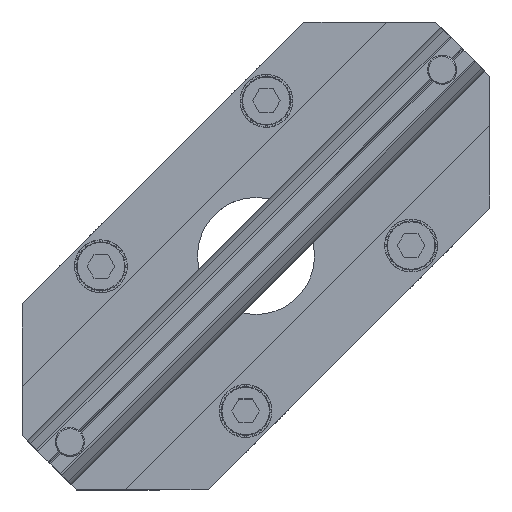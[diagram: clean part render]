
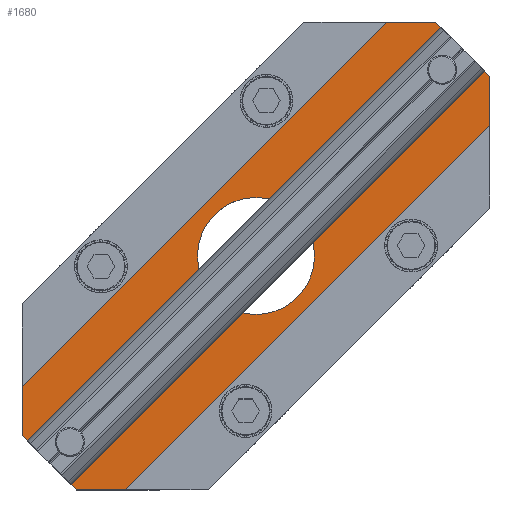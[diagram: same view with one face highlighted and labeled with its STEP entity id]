
A CAD part, top view. The second image highlights one B-rep face of the part: STEP entity #1680.
In plain terms, the highlighted planar face has unit normal (0, 0, 1).
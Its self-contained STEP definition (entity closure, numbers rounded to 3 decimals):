
#460 = VERTEX_POINT ( 'NONE', #27832 ) ;
#536 = DIRECTION ( 'NONE',  ( 0., 1., 0. ) ) ;
#594 = EDGE_CURVE ( 'NONE', #873, #4789, #12694, .T. ) ;
#676 = EDGE_CURVE ( 'NONE', #460, #53103, #4409, .T. ) ;
#873 = VERTEX_POINT ( 'NONE', #42183 ) ;
#1081 = DIRECTION ( 'NONE',  ( -1., 0., 0. ) ) ;
#1260 = EDGE_CURVE ( 'NONE', #50598, #873, #7307, .T. ) ;
#1328 = DIRECTION ( 'NONE',  ( -0.707, 0.707, 0. ) ) ;
#1680 = ADVANCED_FACE ( 'NONE', ( #45121, #46613, #33737, #12516 ), #52143, .F. ) ;
#4409 = CIRCLE ( 'NONE', #44455, 2.55 ) ;
#4465 = VERTEX_POINT ( 'NONE', #46249 ) ;
#4551 = VERTEX_POINT ( 'NONE', #22959 ) ;
#4789 = VERTEX_POINT ( 'NONE', #30099 ) ;
#5237 = VECTOR ( 'NONE', #1328, 1000. ) ;
#6432 = LINE ( 'NONE', #57346, #21563 ) ;
#6964 = ORIENTED_EDGE ( 'NONE', *, *, #594, .F. ) ;
#7307 = LINE ( 'NONE', #45964, #58789 ) ;
#7898 = AXIS2_PLACEMENT_3D ( 'NONE', #39464, #30130, #1081 ) ;
#8156 = ORIENTED_EDGE ( 'NONE', *, *, #56302, .T. ) ;
#10124 = DIRECTION ( 'NONE',  ( 0., 0., -1. ) ) ;
#10553 = DIRECTION ( 'NONE',  ( -1., 0., 0. ) ) ;
#10811 = EDGE_CURVE ( 'NONE', #4465, #40395, #16328, .T. ) ;
#10882 = EDGE_LOOP ( 'NONE', ( #12245, #58870 ) ) ;
#11670 = CARTESIAN_POINT ( 'NONE',  ( -43.334, 37.046, 36.972 ) ) ;
#12245 = ORIENTED_EDGE ( 'NONE', *, *, #51984, .T. ) ;
#12516 = FACE_OUTER_BOUND ( 'NONE', #15450, .T. ) ;
#12694 = LINE ( 'NONE', #24049, #41510 ) ;
#13198 = ORIENTED_EDGE ( 'NONE', *, *, #48009, .T. ) ;
#13286 = DIRECTION ( 'NONE',  ( -1., 0., 0. ) ) ;
#13388 = DIRECTION ( 'NONE',  ( -1., 0., 0. ) ) ;
#14516 = EDGE_CURVE ( 'NONE', #33290, #20161, #25627, .T. ) ;
#15101 = VERTEX_POINT ( 'NONE', #51238 ) ;
#15156 = CIRCLE ( 'NONE', #57767, 2.55 ) ;
#15450 = EDGE_LOOP ( 'NONE', ( #49590, #8156, #26409, #54305, #34578, #46119, #6964, #50933 ) ) ;
#15776 = CARTESIAN_POINT ( 'NONE',  ( -52.624, 54.723, 36.972 ) ) ;
#16328 = CIRCLE ( 'NONE', #45753, 2.55 ) ;
#17145 = DIRECTION ( 'NONE',  ( 0.707, 0.707, 0. ) ) ;
#17487 = EDGE_CURVE ( 'NONE', #53103, #460, #49201, .T. ) ;
#19856 = CARTESIAN_POINT ( 'NONE',  ( -73.334, 14.723, 36.972 ) ) ;
#20161 = VERTEX_POINT ( 'NONE', #11670 ) ;
#20419 = DIRECTION ( 'NONE',  ( 0., 0., 1. ) ) ;
#20579 = DIRECTION ( 'NONE',  ( 0., 0., -1. ) ) ;
#20596 = DIRECTION ( 'NONE',  ( 0.707, -0.707, 0. ) ) ;
#21333 = CARTESIAN_POINT ( 'NONE',  ( -115.154, -17.096, 36.972 ) ) ;
#21563 = VECTOR ( 'NONE', #536, 1000. ) ;
#22636 = VERTEX_POINT ( 'NONE', #33539 ) ;
#22959 = CARTESIAN_POINT ( 'NONE',  ( -93.334, 14.723, 36.972 ) ) ;
#24049 = CARTESIAN_POINT ( 'NONE',  ( -75.154, 54.723, 36.972 ) ) ;
#24221 = AXIS2_PLACEMENT_3D ( 'NONE', #46855, #32451, #13388 ) ;
#24278 = EDGE_CURVE ( 'NONE', #20161, #15101, #56062, .T. ) ;
#24365 = EDGE_CURVE ( 'NONE', #33290, #4789, #33286, .T. ) ;
#25627 = LINE ( 'NONE', #46038, #35475 ) ;
#25861 = CARTESIAN_POINT ( 'NONE',  ( -43.334, 45.434, 36.972 ) ) ;
#26123 = CARTESIAN_POINT ( 'NONE',  ( -54.064, 46.543, 36.972 ) ) ;
#26209 = DIRECTION ( 'NONE',  ( 1., 0., 0. ) ) ;
#26409 = ORIENTED_EDGE ( 'NONE', *, *, #34289, .F. ) ;
#27640 = LINE ( 'NONE', #44330, #60939 ) ;
#27832 = CARTESIAN_POINT ( 'NONE',  ( -112.604, -17.096, 36.972 ) ) ;
#28253 = CARTESIAN_POINT ( 'NONE',  ( -105.657, -25.277, 36.972 ) ) ;
#30099 = CARTESIAN_POINT ( 'NONE',  ( -52.624, 54.723, 36.972 ) ) ;
#30130 = DIRECTION ( 'NONE',  ( 0., 0., -1. ) ) ;
#30664 = AXIS2_PLACEMENT_3D ( 'NONE', #21333, #55219, #26209 ) ;
#30722 = DIRECTION ( 'NONE',  ( -1., 0., 0. ) ) ;
#32451 = DIRECTION ( 'NONE',  ( 0., 0., -1. ) ) ;
#33286 = LINE ( 'NONE', #15776, #5237 ) ;
#33290 = VERTEX_POINT ( 'NONE', #25861 ) ;
#33539 = CARTESIAN_POINT ( 'NONE',  ( -123.334, -15.987, 36.972 ) ) ;
#33737 = FACE_BOUND ( 'NONE', #56690, .T. ) ;
#34193 = DIRECTION ( 'NONE',  ( 1., 0., 0. ) ) ;
#34289 = EDGE_CURVE ( 'NONE', #15101, #44477, #50021, .T. ) ;
#34426 = CIRCLE ( 'NONE', #60270, 10. ) ;
#34578 = ORIENTED_EDGE ( 'NONE', *, *, #14516, .F. ) ;
#34715 = CARTESIAN_POINT ( 'NONE',  ( -91.514, -25.277, 36.972 ) ) ;
#35475 = VECTOR ( 'NONE', #51512, 1000. ) ;
#36169 = CARTESIAN_POINT ( 'NONE',  ( -123.334, -7.599, 36.972 ) ) ;
#39464 = CARTESIAN_POINT ( 'NONE',  ( -83.334, 14.723, 36.972 ) ) ;
#40395 = VERTEX_POINT ( 'NONE', #26123 ) ;
#40687 = CIRCLE ( 'NONE', #7898, 10. ) ;
#41510 = VECTOR ( 'NONE', #34193, 1000. ) ;
#42093 = DIRECTION ( 'NONE',  ( 0., 0., -1. ) ) ;
#42183 = CARTESIAN_POINT ( 'NONE',  ( -61.012, 54.723, 36.972 ) ) ;
#42689 = EDGE_CURVE ( 'NONE', #4551, #57834, #40687, .T. ) ;
#43599 = EDGE_CURVE ( 'NONE', #22636, #50598, #6432, .T. ) ;
#44029 = DIRECTION ( 'NONE',  ( -1., 0., 0. ) ) ;
#44330 = CARTESIAN_POINT ( 'NONE',  ( -114.045, -25.277, 36.972 ) ) ;
#44353 = CARTESIAN_POINT ( 'NONE',  ( -115.154, -17.096, 36.972 ) ) ;
#44455 = AXIS2_PLACEMENT_3D ( 'NONE', #44353, #20419, #54913 ) ;
#44477 = VERTEX_POINT ( 'NONE', #60943 ) ;
#44936 = CARTESIAN_POINT ( 'NONE',  ( -51.514, 46.543, 36.972 ) ) ;
#45121 = FACE_BOUND ( 'NONE', #10882, .T. ) ;
#45753 = AXIS2_PLACEMENT_3D ( 'NONE', #44936, #20579, #30722 ) ;
#45964 = CARTESIAN_POINT ( 'NONE',  ( -61.012, 54.723, 36.972 ) ) ;
#46038 = CARTESIAN_POINT ( 'NONE',  ( -43.334, 54.723, 36.972 ) ) ;
#46119 = ORIENTED_EDGE ( 'NONE', *, *, #24365, .T. ) ;
#46249 = CARTESIAN_POINT ( 'NONE',  ( -48.964, 46.543, 36.972 ) ) ;
#46613 = FACE_BOUND ( 'NONE', #49506, .T. ) ;
#46855 = CARTESIAN_POINT ( 'NONE',  ( 0., 0., 36.972 ) ) ;
#47268 = ORIENTED_EDGE ( 'NONE', *, *, #17487, .F. ) ;
#47547 = DIRECTION ( 'NONE',  ( -0.707, -0.707, 0. ) ) ;
#48009 = EDGE_CURVE ( 'NONE', #57834, #4551, #34426, .T. ) ;
#49201 = CIRCLE ( 'NONE', #30664, 2.55 ) ;
#49281 = VECTOR ( 'NONE', #10553, 1000. ) ;
#49506 = EDGE_LOOP ( 'NONE', ( #56575, #13198 ) ) ;
#49590 = ORIENTED_EDGE ( 'NONE', *, *, #43599, .F. ) ;
#50021 = LINE ( 'NONE', #34715, #49281 ) ;
#50218 = ORIENTED_EDGE ( 'NONE', *, *, #676, .F. ) ;
#50598 = VERTEX_POINT ( 'NONE', #36169 ) ;
#50720 = CARTESIAN_POINT ( 'NONE',  ( -117.704, -17.096, 36.972 ) ) ;
#50772 = VECTOR ( 'NONE', #47547, 1000. ) ;
#50933 = ORIENTED_EDGE ( 'NONE', *, *, #1260, .F. ) ;
#51238 = CARTESIAN_POINT ( 'NONE',  ( -105.657, -25.277, 36.972 ) ) ;
#51512 = DIRECTION ( 'NONE',  ( 0., -1., 0. ) ) ;
#51984 = EDGE_CURVE ( 'NONE', #40395, #4465, #15156, .T. ) ;
#52143 = PLANE ( 'NONE',  #24221 ) ;
#53103 = VERTEX_POINT ( 'NONE', #50720 ) ;
#54305 = ORIENTED_EDGE ( 'NONE', *, *, #24278, .F. ) ;
#54913 = DIRECTION ( 'NONE',  ( 1., 0., 0. ) ) ;
#55219 = DIRECTION ( 'NONE',  ( 0., 0., 1. ) ) ;
#56062 = LINE ( 'NONE', #28253, #50772 ) ;
#56302 = EDGE_CURVE ( 'NONE', #22636, #44477, #27640, .T. ) ;
#56575 = ORIENTED_EDGE ( 'NONE', *, *, #42689, .T. ) ;
#56690 = EDGE_LOOP ( 'NONE', ( #50218, #47268 ) ) ;
#57346 = CARTESIAN_POINT ( 'NONE',  ( -123.334, -25.277, 36.972 ) ) ;
#57767 = AXIS2_PLACEMENT_3D ( 'NONE', #58799, #10124, #44029 ) ;
#57834 = VERTEX_POINT ( 'NONE', #19856 ) ;
#58789 = VECTOR ( 'NONE', #17145, 1000. ) ;
#58799 = CARTESIAN_POINT ( 'NONE',  ( -51.514, 46.543, 36.972 ) ) ;
#58870 = ORIENTED_EDGE ( 'NONE', *, *, #10811, .T. ) ;
#60270 = AXIS2_PLACEMENT_3D ( 'NONE', #61329, #42093, #13286 ) ;
#60939 = VECTOR ( 'NONE', #20596, 1000. ) ;
#60943 = CARTESIAN_POINT ( 'NONE',  ( -114.045, -25.277, 36.972 ) ) ;
#61329 = CARTESIAN_POINT ( 'NONE',  ( -83.334, 14.723, 36.972 ) ) ;
